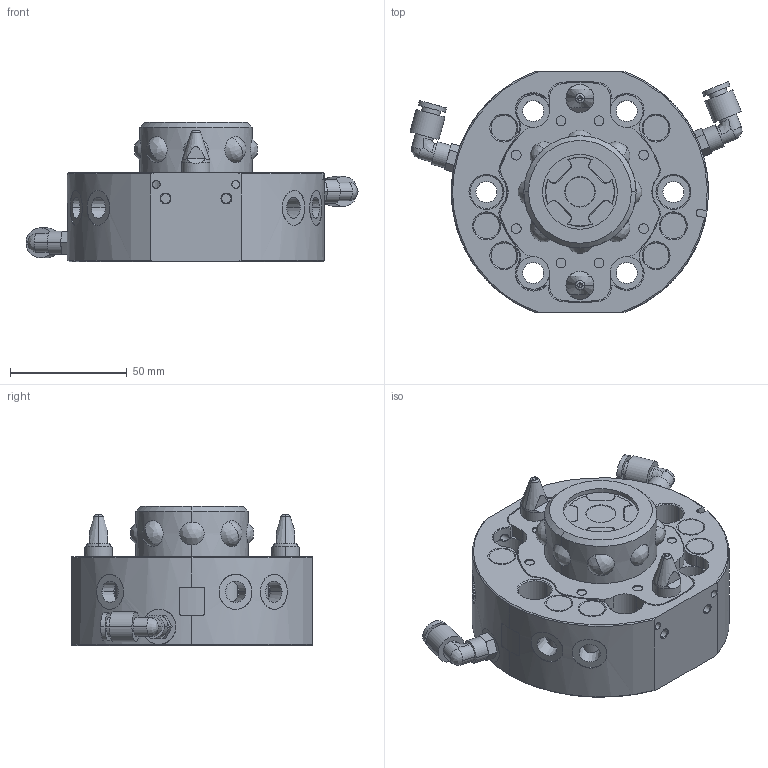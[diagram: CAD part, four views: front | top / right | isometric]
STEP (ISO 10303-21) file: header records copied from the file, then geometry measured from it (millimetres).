
FILE_DESCRIPTION (( 'STEP AP203' ), '1' );
FILE_NAME ('ST-35Y(諦誧傷).STEP', '2024-12-04T03:26:34', ( '' ), ( '' ), 'SwSTEP 2.0', 'SolidWorks 2018', '' );
FILE_SCHEMA (( 'CONFIG_CONTROL_DESIGN' ));
Length unit declared in the file: millimetre
Products named in the file (1): ST-35Y(諦誧傷)
Bounding box: 142.06 x 103 x 59.5 mm (x, y, z)
Volume: 357322.6 mm3; surface area: 75015.5 mm2
Topology: 1 solids, 16 shells, 911 faces, 2219 edges, 1377 vertices
Faces by surface type: cylinder 352, plane 297, cone 172, bspline 90
Entity records: 31162 total; most frequent: CARTESIAN_POINT 10057, DIRECTION 4440, ORIENTED_EDGE 4310, EDGE_CURVE 2155, AXIS2_PLACEMENT_3D 1747, VERTEX_POINT 1376, EDGE_LOOP 1065, LINE 946
